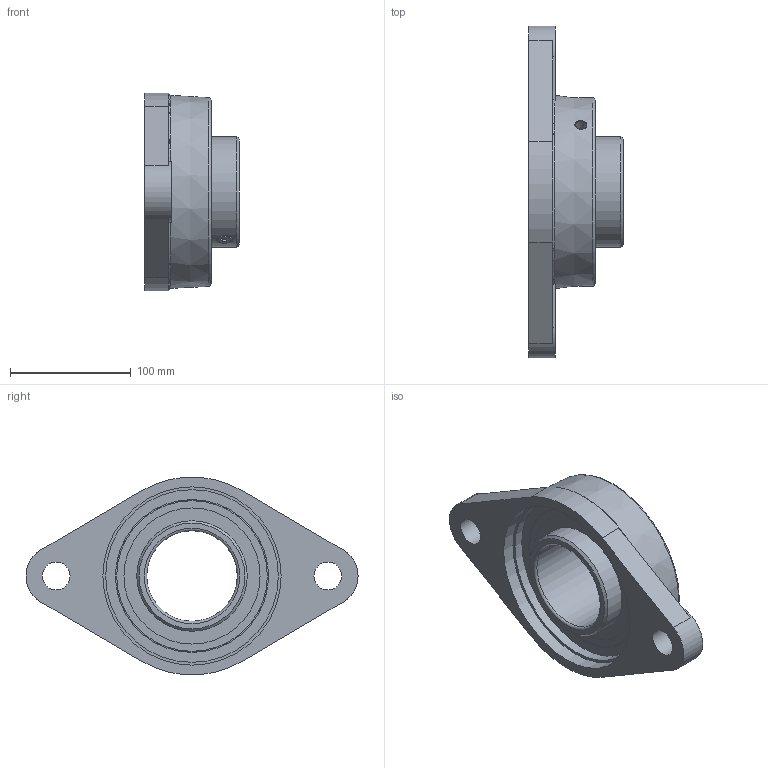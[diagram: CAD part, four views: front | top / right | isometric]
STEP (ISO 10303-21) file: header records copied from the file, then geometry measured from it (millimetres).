
FILE_DESCRIPTION (( 'STEP AP203' ), '1' );
FILE_NAME ('UCFL-215.STEP', '2019-03-08T12:11:46', ( '' ), ( '' ), 'SwSTEP 2.0', 'SolidWorks 2017', '' );
FILE_SCHEMA (( 'CONFIG_CONTROL_DESIGN' ));
Length unit declared in the file: millimetre
Products named in the file (1): UCFL-215
Bounding box: 78.5 x 275 x 163.53 mm (x, y, z)
Volume: 764265.6 mm3; surface area: 150340.7 mm2
Topology: 1 solids, 3 shells, 93 faces, 210 edges, 141 vertices
Faces by surface type: plane 43, cylinder 24, cone 10, torus 9, sphere 7
Full cylindrical faces by diameter (mm): 1.5 x4, 8.918 x1, 10 x1, 12 x2, 23 x2, 75 x1, 91.5 x4, 112.713 x2, 143 x2, 147.6 x1
Entity records: 3047 total; most frequent: CARTESIAN_POINT 1124, DIRECTION 384, ORIENTED_EDGE 304, AXIS2_PLACEMENT_3D 160, EDGE_LOOP 158, EDGE_CURVE 152, FACE_OUTER_BOUND 120, VERTEX_POINT 120
